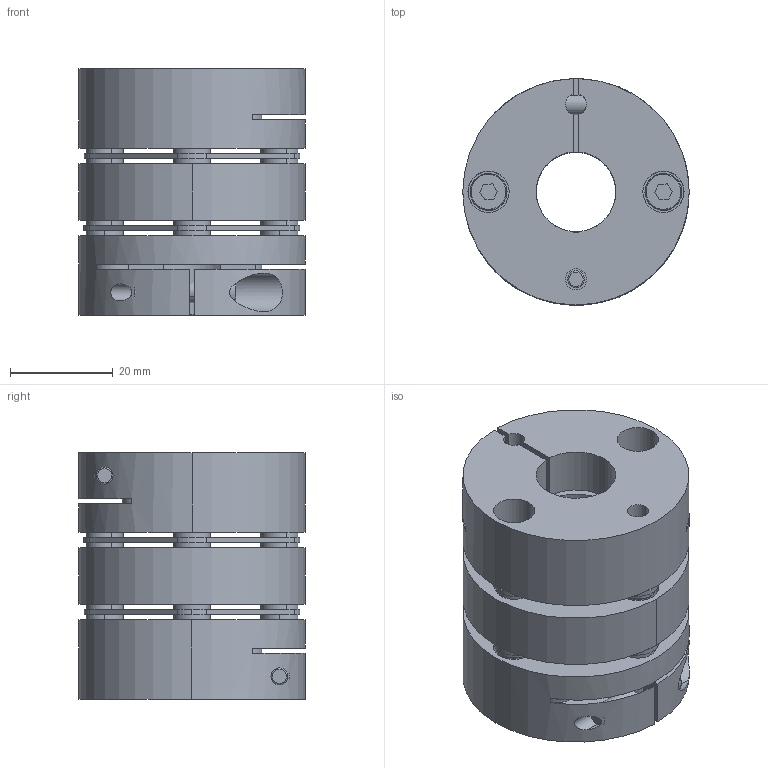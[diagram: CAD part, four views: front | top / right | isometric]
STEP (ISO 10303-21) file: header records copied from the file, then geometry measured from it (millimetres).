
FILE_DESCRIPTION (( 'STEP AP214' ), '1' );
FILE_NAME ('LC-A-040DA-15.5B-15.5B（C型）.STEP', '2019-09-19T01:49:35', ( 'admin' ), ( 'Microsoft' ), 'SwSTEP 2.0', 'SolidWorks 2016', '' );
FILE_SCHEMA (( 'AUTOMOTIVE_DESIGN' ));
Length unit declared in the file: millimetre
Products named in the file (1): LC-A-040DA-15.5B-15.5B（C型）
Bounding box: 44 x 44 x 48 mm (x, y, z)
Volume: 50216.3 mm3; surface area: 28404.4 mm2
Topology: 31 solids, 31 shells, 446 faces, 1028 edges, 664 vertices
Faces by surface type: cylinder 210, plane 176, torus 40, cone 20
Entity records: 18532 total; most frequent: CARTESIAN_POINT 2605, DIRECTION 2418, ORIENTED_EDGE 2056, EDGE_CURVE 1028, AXIS2_PLACEMENT_3D 965, VERTEX_POINT 664, EDGE_LOOP 560, CIRCLE 518
